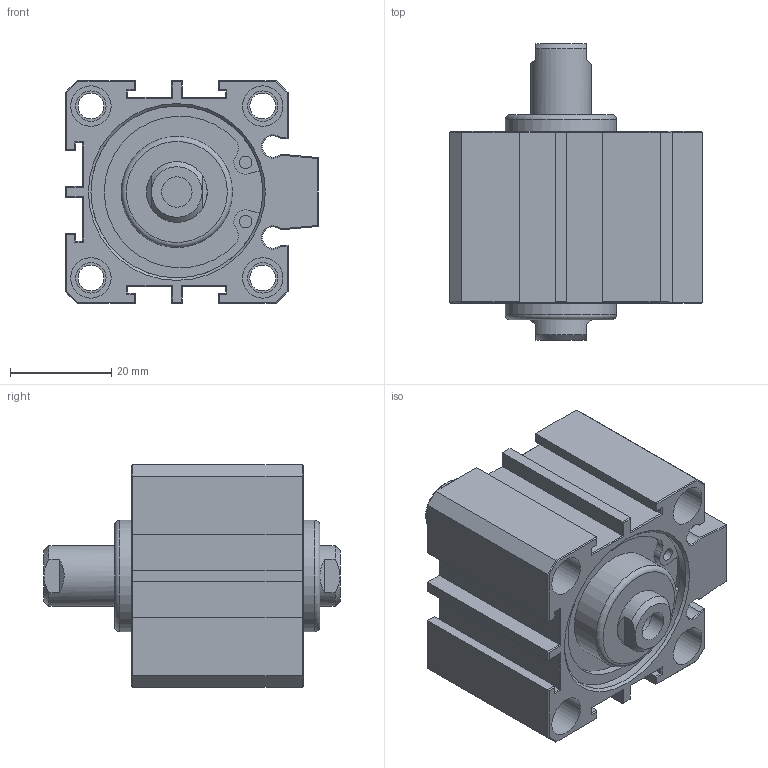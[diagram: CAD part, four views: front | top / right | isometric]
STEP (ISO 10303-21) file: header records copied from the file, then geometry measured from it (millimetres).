
FILE_DESCRIPTION(/* description */ (''),/* implementation_level */ '2;1');
FILE_NAME(/* name */ 'AJC-SW32X10N',/* time_stamp */ '2019-06-21T16:05:27+08:00',/* author */ ('JEFF HUANG'),/* organization */ ('TAIWAN AMAC CLAMP INDUSTRIAL CO., LTD.'),/* preprocessor_version */ 'ST-DEVELOPER v16.7',/* originating_system */ 'DEX',/* authorisation */ $);
FILE_SCHEMA (('AUTOMOTIVE_DESIGN {1 0 10303 214 3 1 1}'));
Length unit declared in the file: millimetre
Products named in the file (1): AJC-SW32X10N
Bounding box: 50 x 58.6 x 44 mm (x, y, z)
Volume: 56526.1 mm3; surface area: 18367.6 mm2
Topology: 1 solids, 1 shells, 267 faces, 582 edges, 347 vertices
Faces by surface type: plane 198, cylinder 51, cone 12, sphere 4, torus 2
Full cylindrical faces by diameter (mm): 2.5 x4, 5.1 x4, 6 x12, 8 x8, 9.147 x2, 12 x1, 22 x2, 34 x2
Entity records: 8747 total; most frequent: CARTESIAN_POINT 1190, DIRECTION 1178, ORIENTED_EDGE 1062, EDGE_CURVE 531, AXIS2_PLACEMENT_3D 395, LINE 388, VECTOR 388, EDGE_LOOP 350
